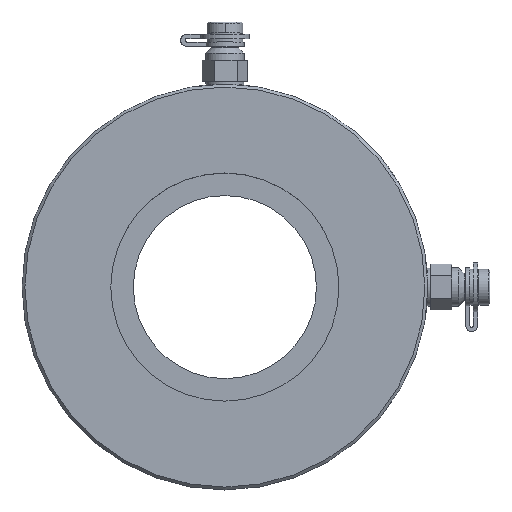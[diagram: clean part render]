
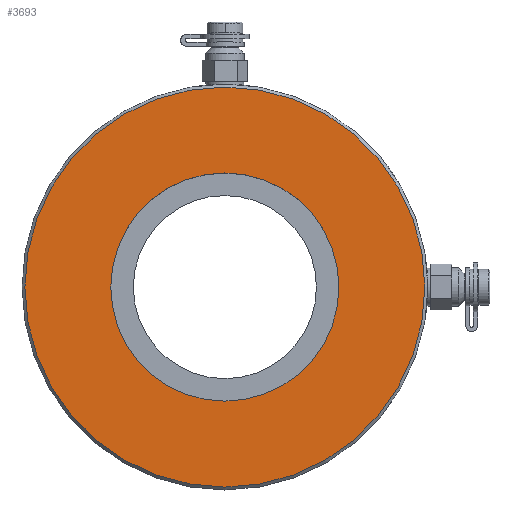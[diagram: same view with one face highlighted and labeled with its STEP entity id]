
A CAD part, top view. The second image highlights one B-rep face of the part: STEP entity #3693.
In plain terms, the highlighted planar face has unit normal (0, 0, 1).
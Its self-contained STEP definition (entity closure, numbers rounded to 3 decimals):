
#3659=CARTESIAN_POINT('',(71.0,0.,10.0));
#3660=VERTEX_POINT('',#3659);
#3661=CARTESIAN_POINT('',(0.0,0.0,10.0));
#3662=DIRECTION('',(0.0,0.0,-1.0));
#3663=DIRECTION('',(-1.0,0.0,0.0));
#3664=AXIS2_PLACEMENT_3D('',#3661,#3662,#3663);
#3665=CIRCLE('',#3664,71.0);
#3666=EDGE_CURVE('',#3660,#3660,#3665,.T.);
#3674=CARTESIAN_POINT('',(0.0,0.0,10.0));
#3675=DIRECTION('',(0.0,0.0,-1.0));
#3676=DIRECTION('',(-1.0,0.0,0.0));
#3677=AXIS2_PLACEMENT_3D('',#3674,#3675,#3676);
#3678=PLANE('',#3677);
#3679=ORIENTED_EDGE('',*,*,#3666,.F.);
#3680=EDGE_LOOP('',(#3679));
#3681=FACE_OUTER_BOUND('',#3680,.T.);
#3682=CARTESIAN_POINT('',(40.5,0.,10.0));
#3683=VERTEX_POINT('',#3682);
#3684=CARTESIAN_POINT('',(0.0,0.0,10.0));
#3685=DIRECTION('',(0.0,0.0,-1.0));
#3686=DIRECTION('',(-1.0,0.0,0.0));
#3687=AXIS2_PLACEMENT_3D('',#3684,#3685,#3686);
#3688=CIRCLE('',#3687,40.5);
#3689=EDGE_CURVE('',#3683,#3683,#3688,.T.);
#3690=ORIENTED_EDGE('',*,*,#3689,.T.);
#3691=EDGE_LOOP('',(#3690));
#3692=FACE_BOUND('',#3691,.T.);
#3693=ADVANCED_FACE('',(#3681,#3692),#3678,.F.);
